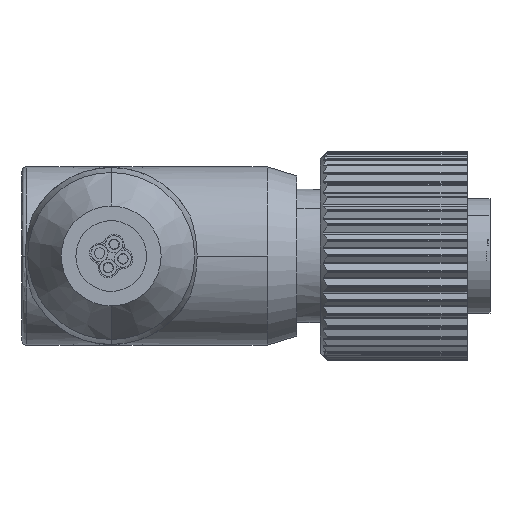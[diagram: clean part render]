
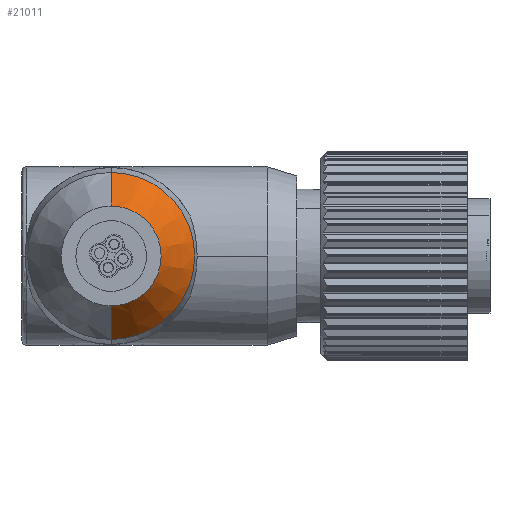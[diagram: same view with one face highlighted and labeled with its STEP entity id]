
A CAD part, left-side view. The second image highlights one B-rep face of the part: STEP entity #21011.
In plain terms, the highlighted conical face has half-angle 30.434 degrees and reference radius 3.5 mm.
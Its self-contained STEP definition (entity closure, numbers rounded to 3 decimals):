
#1317 = CARTESIAN_POINT ( 'NONE',  ( 0., 0., 3.5 ) ) ;
#1680 = DIRECTION ( 'NONE',  ( -1., 0., 0. ) ) ;
#2456 = DIRECTION ( 'NONE',  ( 0., 0., 1. ) ) ;
#3396 = CARTESIAN_POINT ( 'NONE',  ( 4., 0., 5.85 ) ) ;
#3442 = AXIS2_PLACEMENT_3D ( 'NONE', #23283, #12132, #26067 ) ;
#4711 = ORIENTED_EDGE ( 'NONE', *, *, #13327, .T. ) ;
#4909 = VERTEX_POINT ( 'NONE', #9559 ) ;
#5486 = CIRCLE ( 'NONE', #16179, 3.5 ) ;
#6126 = CARTESIAN_POINT ( 'NONE',  ( 4., 0., 0. ) ) ;
#6390 = AXIS2_PLACEMENT_3D ( 'NONE', #6126, #1680, #10533 ) ;
#6755 = ORIENTED_EDGE ( 'NONE', *, *, #24314, .F. ) ;
#8953 = VERTEX_POINT ( 'NONE', #14508 ) ;
#9559 = CARTESIAN_POINT ( 'NONE',  ( 0., 0., 3.5 ) ) ;
#10113 = EDGE_CURVE ( 'NONE', #23776, #8953, #10858, .T. ) ;
#10533 = DIRECTION ( 'NONE',  ( 0., 0., 1. ) ) ;
#10858 = LINE ( 'NONE', #21400, #12210 ) ;
#11229 = CARTESIAN_POINT ( 'NONE',  ( 0., 0., 0. ) ) ;
#12132 = DIRECTION ( 'NONE',  ( 1., 0., 0. ) ) ;
#12210 = VECTOR ( 'NONE', #19161, 1000. ) ;
#12343 = EDGE_LOOP ( 'NONE', ( #6755, #24269, #20034, #4711 ) ) ;
#13327 = EDGE_CURVE ( 'NONE', #8953, #23303, #26140, .T. ) ;
#13878 = CONICAL_SURFACE ( 'NONE', #3442, 3.5, 0.531 ) ;
#14508 = CARTESIAN_POINT ( 'NONE',  ( 4., 0., -5.85 ) ) ;
#15542 = DIRECTION ( 'NONE',  ( -1., 0., 0. ) ) ;
#16179 = AXIS2_PLACEMENT_3D ( 'NONE', #11229, #15542, #2456 ) ;
#19161 = DIRECTION ( 'NONE',  ( 0.862, 0., -0.507 ) ) ;
#20034 = ORIENTED_EDGE ( 'NONE', *, *, #10113, .T. ) ;
#20217 = LINE ( 'NONE', #1317, #24656 ) ;
#21011 = ADVANCED_FACE ( 'NONE', ( #24168 ), #13878, .T. ) ;
#21400 = CARTESIAN_POINT ( 'NONE',  ( 0., 0., -3.5 ) ) ;
#23283 = CARTESIAN_POINT ( 'NONE',  ( 0., 0., 0. ) ) ;
#23303 = VERTEX_POINT ( 'NONE', #3396 ) ;
#23776 = VERTEX_POINT ( 'NONE', #26695 ) ;
#24168 = FACE_OUTER_BOUND ( 'NONE', #12343, .T. ) ;
#24269 = ORIENTED_EDGE ( 'NONE', *, *, #24517, .F. ) ;
#24314 = EDGE_CURVE ( 'NONE', #4909, #23303, #20217, .T. ) ;
#24517 = EDGE_CURVE ( 'NONE', #23776, #4909, #5486, .T. ) ;
#24656 = VECTOR ( 'NONE', #25546, 1000. ) ;
#25546 = DIRECTION ( 'NONE',  ( 0.862, 0., 0.507 ) ) ;
#26067 = DIRECTION ( 'NONE',  ( 0., 0., -1. ) ) ;
#26140 = CIRCLE ( 'NONE', #6390, 5.85 ) ;
#26695 = CARTESIAN_POINT ( 'NONE',  ( 0., 0., -3.5 ) ) ;
